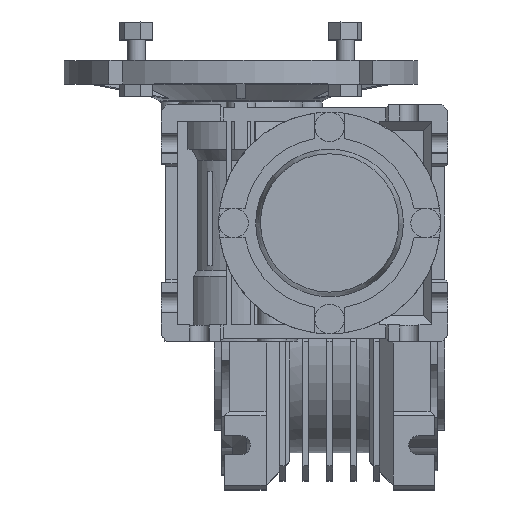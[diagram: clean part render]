
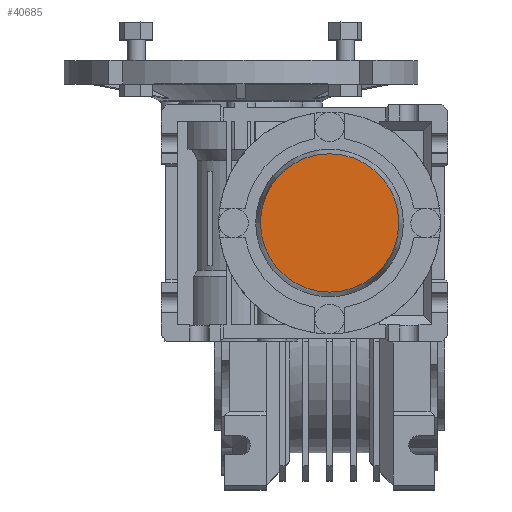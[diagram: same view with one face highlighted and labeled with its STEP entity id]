
A CAD part, top view. The second image highlights one B-rep face of the part: STEP entity #40685.
In plain terms, the highlighted planar face has unit normal (0, 0, 1) as drawn and (1, 0, 0) by its records, which use the part's own axes.
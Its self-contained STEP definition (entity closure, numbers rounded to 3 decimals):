
#1555=CIRCLE('',#43322,23.413);
#9265=ORIENTED_EDGE('',*,*,#13903,.T.);
#13903=EDGE_CURVE('',#16839,#16839,#1555,.T.);
#16839=VERTEX_POINT('',#60295);
#24871=EDGE_LOOP('',(#9265));
#26735=FACE_BOUND('',#24871,.T.);
#28013=PLANE('',#43323);
#40685=ADVANCED_FACE('',(#26735),#28013,.F.);
#43322=AXIS2_PLACEMENT_3D('',#60294,#51066,#51067);
#43323=AXIS2_PLACEMENT_3D('',#60296,#51068,#51069);
#51066=DIRECTION('',(1.,0.,0.));
#51067=DIRECTION('',(0.,0.,-1.));
#51068=DIRECTION('',(-1.,0.,0.));
#51069=DIRECTION('',(0.,0.,1.));
#60294=CARTESIAN_POINT('',(13.,0.,0.));
#60295=CARTESIAN_POINT('',(13.,0.,-23.413));
#60296=CARTESIAN_POINT('',(13.,23.413,0.));
